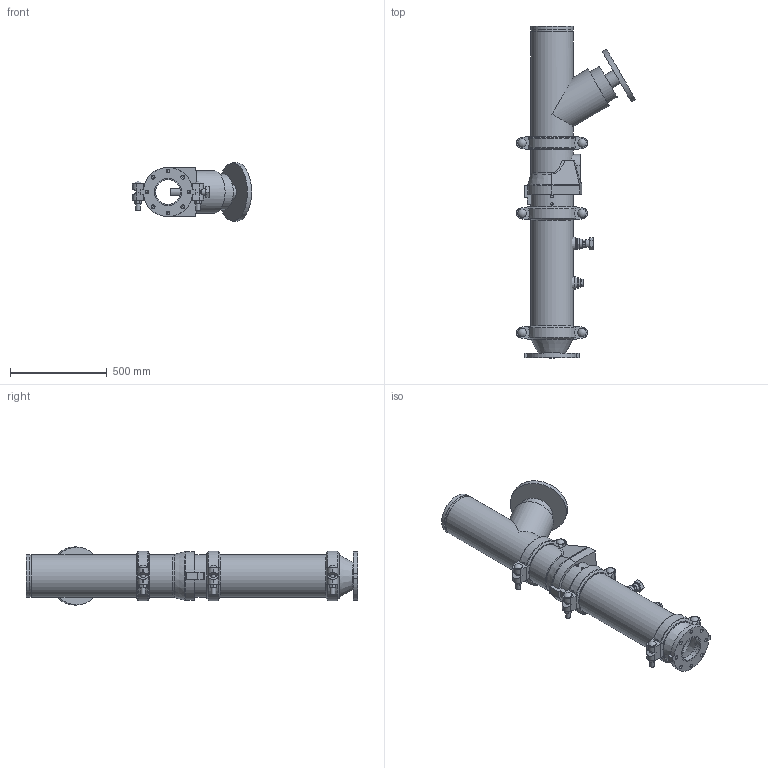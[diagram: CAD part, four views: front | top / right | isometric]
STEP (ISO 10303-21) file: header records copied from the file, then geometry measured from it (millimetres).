
FILE_DESCRIPTION(/* description */ ('VIC DVI PUMP DROP VERT S/383 (OGSxFLG) (S/924-1.25)','CAx-IF Rec.Pracs.---Representation and Presentation of Product Manufacturing Information (PMI)---4.0---2014-10-13'),/* implementation_level */ '2;1');
FILE_NAME(/* name */ 'C:\Users\Public\Documents\Victaulic.Temp\A849\Victaulic_IPS_Vertical DVI_CL 150_Series 383 (OGSxFLG)_924 (1.25)_08.0x05.0 (200x125).stp',/* time_stamp */ '2022-07-25T11:41:26+02:00',/* author */ ('Vjadhav'),/* organization */ ('Victaulic'),/* preprocessor_version */ 'ST-DEVELOPER v18',/* originating_system */ 'Autodesk Inventor 2020',/* authorisation */ '');
FILE_SCHEMA (('AP242_MANAGED_MODEL_BASED_3D_ENGINEERING_MIM_LF { 1 0 10303 442 1 1 4 }'));
Length unit declared in the file: inch
Products named in the file (9): 383_924 (1.25)-08.0x05.0; 741-05.0; 050-08.0x05.0; Pipe-08.0; 177N-08.0; 789-08.0; 779-08.0; 924-04.0x01.25; 923-04.0x0.75
Assembly tree (10 placements, depth 2):
  383_924 (1.25)-08.0x05.0
    741-05.0
    050-08.0x05.0
    177N-08.0  x3
    Pipe-08.0
    789-08.0
    779-08.0
    924-04.0x01.25
    923-04.0x0.75
Bounding box: 615.44 x 1714.5 x 299.97 mm (x, y, z)
Volume: 27264370.4 mm3; surface area: 3457169.2 mm2
Topology: 10 solids, 11 shells, 536 faces, 1407 edges, 946 vertices
Faces by surface type: plane 312, cylinder 179, cone 19, torus 18, sphere 6, bspline 2
Full cylindrical faces by diameter (mm): 13.716 x4, 19.05 x8, 21.336 x1, 23.774 x6, 26.67 x2, 38.608 x1, 42.164 x1, 42.85 x6, 45.974 x4, 48.514 x1, 55.626 x2, 76.2 x1, 128.194 x1, 137.033 x1, 141.3 x3, 183.515 x1, 202.717 x4, 206.375 x3, 214.401 x7, 219.075 x19, 299.974 x1
Entity records: 12065 total; most frequent: CARTESIAN_POINT 2445, DIRECTION 1976, ORIENTED_EDGE 1794, EDGE_CURVE 897, AXIS2_PLACEMENT_3D 755, VERTEX_POINT 610, LINE 466, VECTOR 466
